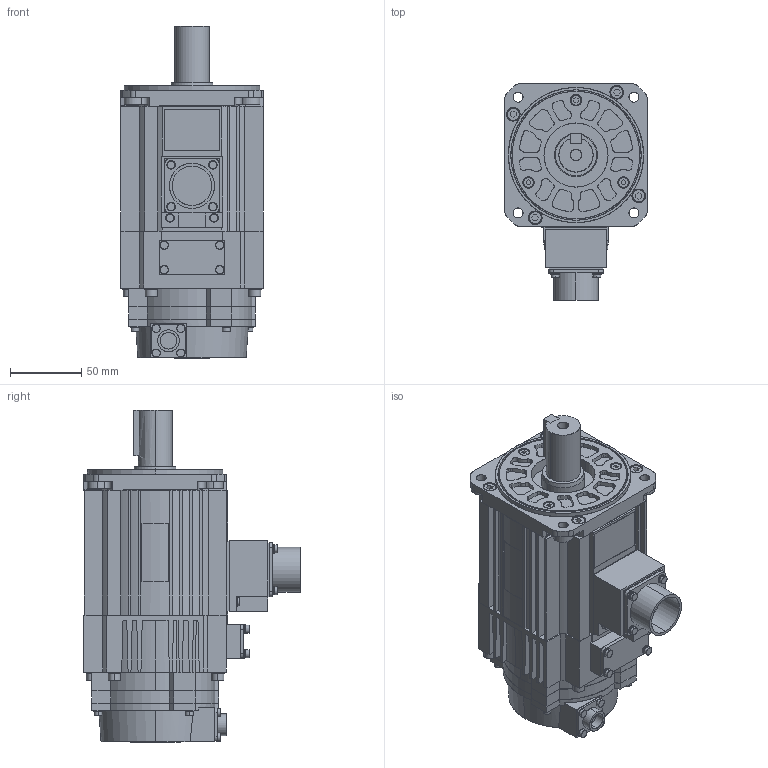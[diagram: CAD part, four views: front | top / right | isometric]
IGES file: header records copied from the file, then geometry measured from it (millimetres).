
Start section: SolidWorks IGES file using analytic representation for surfaces
Global section: file name: D:\YASKAWA\sgmsv_10a_a6c.IGS; native system: SolidWorks 2006 by SolidWorks Corporation; preprocessor: SolidWorks 2006 by SolidWorks Corporation; author: yamanouchi; date: 110320.204544; units: millimetre
Bounding box: 100 x 151.75 x 233.1 mm (x, y, z)
Surface area: 149711.3 mm2 (no closed solid volume)
Topology: 0 solids, 0 shells, 996 faces, 12135 edges, 12132 vertices
Faces by surface type: bspline 578, revolution 418
